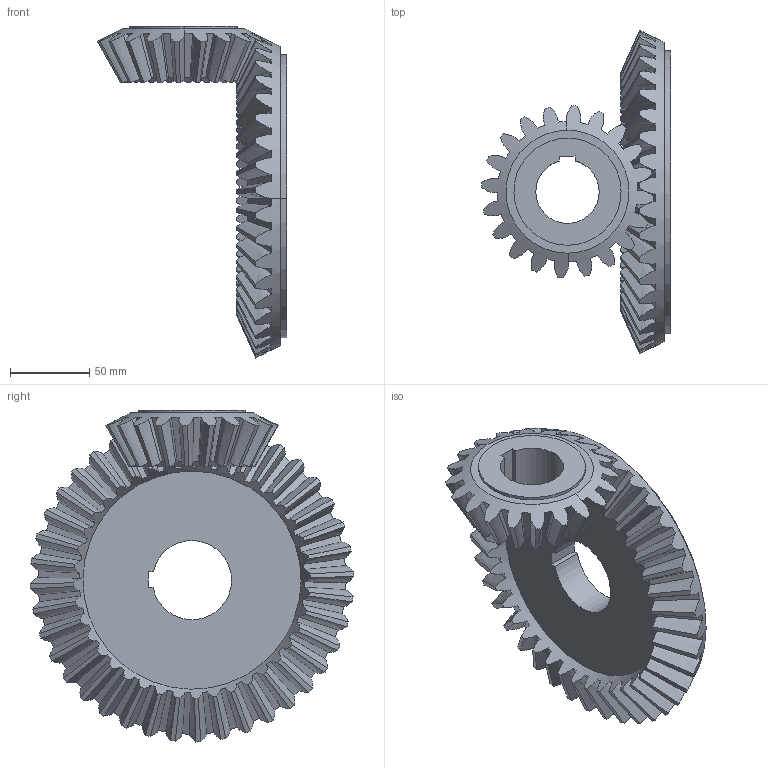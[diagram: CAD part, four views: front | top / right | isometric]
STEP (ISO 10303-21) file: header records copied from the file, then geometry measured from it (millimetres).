
FILE_DESCRIPTION((''),'2;1');
FILE_NAME('GEAR_ASSM_ASM','2023-12-19T23:43:56',('erl-l'),(''),'CREO PARAMETRIC BY PTC INC, 2022164','CREO PARAMETRIC BY PTC INC, 2022164','');
FILE_SCHEMA(('AUTOMOTIVE_DESIGN { 1 0 10303 214 1 1 1 1 }'));
Length unit declared in the file: millimetre
Products named in the file (3): PINION; GEAR; GEAR_ASSM_ASM
Assembly tree (2 placements, depth 2):
  GEAR_ASSM_ASM
    PINION
    GEAR
Bounding box: 119.53 x 204.42 x 209.69 mm (x, y, z)
Volume: 711266.3 mm3; surface area: 119414.7 mm2
Topology: 2 solids, 2 shells, 306 faces, 893 edges, 593 vertices
Faces by surface type: bspline 120, plane 112, cone 68, cylinder 6
Entity records: 15032 total; most frequent: CARTESIAN_POINT 7866, ORIENTED_EDGE 1786, DIRECTION 975, EDGE_CURVE 893, VERTEX_POINT 593, B_SPLINE_CURVE_WITH_KNOTS 440, AXIS2_PLACEMENT_3D 331, VECTOR 313
